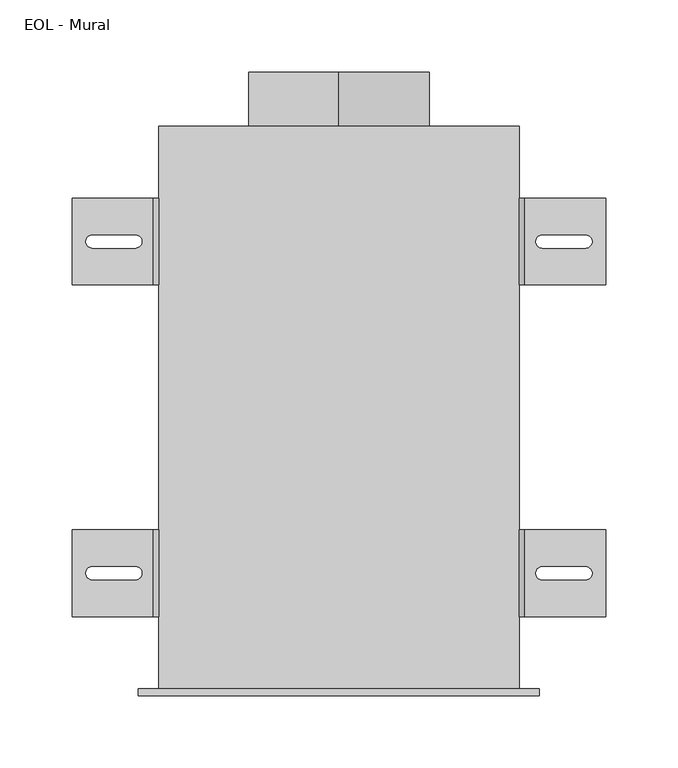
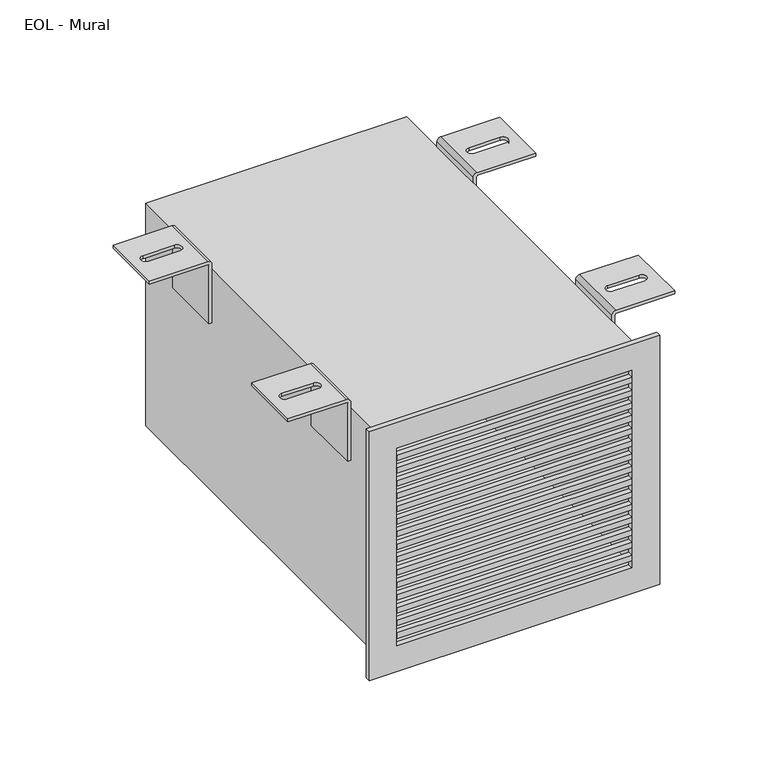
"""IFC4 building model written with IfcOpenShell, lengths in millimetres: air terminal geometry, EOL - Mural : EOL-M125-250x225-2."""

from ifc_helpers import new_model, si_unit, point, frame, origin, origin_2d, place, context, project, spatial, polyline, circle_curve, ellipse_curve, trimmed, segment, composite_curve, outline, extrude, source, transform, mapped, element, save
from ifc_brep_helpers import plane_surface, cylinder_surface, revolved_surface, extruded_surface, advanced_brep


def eol_mural_10c953f2(model_context):
    return source(origin(), model_context, "Body", "SolidModel", [
        advanced_brep(
        [(129.0013366, 110.0, 121.5), (185.0, 110.0, 121.5), (185.0, 110.0, 118.5), (129.0, 110.0, 118.5), (128.0, 110.0, 117.5), (128.0, 110.0, 58.5), (125.0, 110.0, 58.5), (125.0, 110.0, 117.4986634), (129.0013366, 50.0, 121.5), (125.0, 50.0, 117.4986634), (125.0, 50.0, 58.5), (128.0, 50.0, 58.5), (128.0, 50.0, 117.5), (129.0, 50.0, 118.5), (185.0, 50.0, 118.5), (185.0, 50.0, 121.5), (171.0287952, 75.4804328, 121.5), (141.0287952, 75.4804328, 121.5), (141.0287952, 84.4804328, 121.5), (171.0287952, 84.4804328, 121.5), (141.0287952, 75.4804328, 118.5), (171.0287952, 75.4804328, 118.5), (171.0287952, 84.4804328, 118.5), (141.0287952, 84.4804328, 118.5)],
        [
            (0, 1),
            (1, 2),
            (2, 3),
            (3, 4, circle_curve(frame((129.0, 110.0, 117.5), z_axis=(0.0, -1.0, 0.0), x_axis=(-1.0000000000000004, 0.0, 0.0)), 1.0)),
            (4, 5),
            (5, 6),
            (6, 7),
            (7, 0, circle_curve(frame((129.0013366, 110.0, 117.4986634), z_axis=(0.0, 1.0, 0.0), x_axis=(-1.0000000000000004, 0.0, 0.0)), 4.0013366)),
            (8, 9, circle_curve(frame((129.0013366, 50.0, 117.4986634), z_axis=(0.0, -1.0, 0.0), x_axis=(-1.0000000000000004, 0.0, 0.0)), 4.0013366)),
            (9, 10),
            (10, 11),
            (11, 12),
            (12, 13, circle_curve(frame((129.0, 50.0, 117.5), z_axis=(0.0, 1.0, 0.0), x_axis=(-1.0000000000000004, 0.0, 0.0)), 1.0)),
            (13, 14),
            (14, 15),
            (15, 8),
            (0, 8),
            (15, 1),
            (16, 17),
            (17, 18, circle_curve(frame((141.0287952, 79.9804328, 121.5), z_axis=(0.0, 0.0, -1.0), x_axis=(0.0, -1.0, 0.0)), 4.5)),
            (18, 19),
            (19, 16, circle_curve(frame((171.0287952, 79.9804328, 121.5), z_axis=(0.0, 0.0, -1.0), x_axis=(0.0, -1.0, 0.0)), 4.5)),
            (14, 2),
            (13, 3),
            (20, 21),
            (21, 22, ellipse_curve(frame((171.0287952, 79.9804328, 118.5), z_axis=(0.0, 0.0, 1.0), x_axis=(0.0, -1.0, 0.0)), 4.5, 4.5)),
            (22, 23),
            (23, 20, ellipse_curve(frame((141.0287952, 79.9804328, 118.5), z_axis=(0.0, 0.0, 1.0), x_axis=(0.0, -1.0, 0.0)), 4.5, 4.5)),
            (12, 4),
            (11, 5),
            (10, 6),
            (9, 7),
            (16, 21),
            (20, 17),
            (19, 22),
            (18, 23),
        ],
        [
            plane_surface(frame((185.0, 110.0, 121.5), z_axis=(0.0, 1.0, 0.0), x_axis=(1.0, 0.0, 0.0))),
            plane_surface(frame((185.0, 50.0, 121.5), z_axis=(0.0, -1.0, 0.0), x_axis=(-1.0, 0.0, 0.0))),
            plane_surface(frame((129.0013366, 110.0, 121.5), z_axis=(0.0, 0.0, 1.0), x_axis=(0.0, -1.0, 0.0))),
            plane_surface(frame((185.0, 110.0, 121.5), z_axis=(1.0, 0.0, 0.0), x_axis=(0.0, -1.0, 0.0))),
            plane_surface(frame((185.0, 110.0, 118.5), z_axis=(0.0, 0.0, -1.0), x_axis=(0.0, -1.0, 0.0))),
            revolved_surface(polyline([(128.0, 50.0, 117.5), (128.0, 110.00000000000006, 117.5)]), (129.0, 50.0, 117.5), (0.0, -1.0000000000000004, 0.0)),
            plane_surface(frame((128.0, 110.0, 117.5), z_axis=(1.0, 0.0, 0.0), x_axis=(0.0, -1.0, 0.0))),
            plane_surface(frame((128.0, 110.0, 58.5), z_axis=(0.0, 0.0, -1.0), x_axis=(0.0, -1.0, 0.0))),
            plane_surface(frame((125.0, 110.0, 58.5), z_axis=(-1.0, 0.0, 0.0), x_axis=(0.0, -1.0, 0.0))),
            cylinder_surface(frame((129.0013366, 50.0, 117.4986634), z_axis=(0.0, 1.0000000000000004, 0.0), x_axis=(-1.0000000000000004, 0.0, 0.0)), 4.0013366),
            plane_surface(frame((141.0287952, 75.4804328, 121.5), z_axis=(0.0, 1.0, 0.0), x_axis=(0.0, 0.0, -1.0))),
            extruded_surface(trimmed(ellipse_curve(frame((171.0287952, 79.9804328, 118.5), z_axis=(0.0, 0.0, 1.0), x_axis=(0.0, -1.0, 0.0)), 4.5, 4.5), [point((171.0287952, 75.4804328, 118.5))], [point((171.0287952, 84.4804328, 118.5))], True, "CARTESIAN"), (0.0, 0.0, -3.0), 3.0),
            plane_surface(frame((171.0287952, 84.4804328, 121.5), z_axis=(0.0, -1.0, 0.0), x_axis=(0.0, 0.0, -1.0))),
            extruded_surface(trimmed(ellipse_curve(frame((141.0287952, 79.9804328, 118.5), z_axis=(0.0, 0.0, 1.0), x_axis=(0.0, -1.0, 0.0)), 4.5, 4.5), [point((141.0287952, 84.4804328, 118.5))], [point((141.0287952, 75.4804328, 118.5))], True, "CARTESIAN"), (0.0, 0.0, -3.0), 3.0),
        ],
        [
            (0, [[1, 2, 3, 4, 5, 6, 7, 8]]),
            (1, [[9, 10, 11, 12, 13, 14, 15, 16]]),
            (2, [[-1, 17, -16, 18], [19, 20, 21, 22]]),
            (3, [[-2, -18, -15, 23]]),
            (4, [[-3, -23, -14, 24], [25, 26, 27, 28]]),
            (5, [[-4, -24, -13, 29]]),
            (6, [[-5, -29, -12, 30]]),
            (7, [[-6, -30, -11, 31]]),
            (8, [[-7, -31, -10, 32]]),
            (9, [[-8, -32, -9, -17]]),
            (10, [[33, -25, 34, -19]]),
            (11, [[-33, -22, 35, -26]]),
            (12, [[-35, -21, 36, -27]]),
            (13, [[-34, -28, -36, -20]]),
        ],
    ),
        advanced_brep(
        [(129.0013366, 340.0, 121.5), (185.0, 340.0, 121.5), (185.0, 340.0, 118.5), (129.0, 340.0, 118.5), (128.0, 340.0, 117.5), (128.0, 340.0, 58.5), (125.0, 340.0, 58.5), (125.0, 340.0, 117.4986634), (129.0013366, 280.0, 121.5), (125.0, 280.0, 117.4986634), (125.0, 280.0, 58.5), (128.0, 280.0, 58.5), (128.0, 280.0, 117.5), (129.0, 280.0, 118.5), (185.0, 280.0, 118.5), (185.0, 280.0, 121.5), (171.0287952, 305.4804328, 121.5), (141.0287952, 305.4804328, 121.5), (141.0287952, 314.4804328, 121.5), (171.0287952, 314.4804328, 121.5), (141.0287952, 305.4804328, 118.5), (171.0287952, 305.4804328, 118.5), (171.0287952, 314.4804328, 118.5), (141.0287952, 314.4804328, 118.5)],
        [
            (0, 1),
            (1, 2),
            (2, 3),
            (3, 4, circle_curve(frame((129.0, 340.0, 117.5), z_axis=(0.0, -1.0, 0.0), x_axis=(-1.0, 0.0, 0.0)), 1.0)),
            (4, 5),
            (5, 6),
            (6, 7),
            (7, 0, circle_curve(frame((129.0013366, 340.0, 117.4986634), z_axis=(0.0, 1.0, 0.0), x_axis=(-1.0, 0.0, 0.0)), 4.0013366)),
            (8, 9, circle_curve(frame((129.0013366, 280.0, 117.4986634), z_axis=(0.0, -1.0, 0.0), x_axis=(-1.0, 0.0, 0.0)), 4.0013366)),
            (9, 10),
            (10, 11),
            (11, 12),
            (12, 13, circle_curve(frame((129.0, 280.0, 117.5), z_axis=(0.0, 1.0, 0.0), x_axis=(-1.0, 0.0, 0.0)), 1.0)),
            (13, 14),
            (14, 15),
            (15, 8),
            (0, 8),
            (15, 1),
            (16, 17),
            (17, 18, circle_curve(frame((141.0287952, 309.9804328, 121.5), z_axis=(0.0, 0.0, -1.0), x_axis=(0.0, -1.0, 0.0)), 4.5)),
            (18, 19),
            (19, 16, circle_curve(frame((171.0287952, 309.9804328, 121.5), z_axis=(0.0, 0.0, -1.0), x_axis=(0.0, -1.0, 0.0)), 4.5)),
            (14, 2),
            (13, 3),
            (20, 21),
            (21, 22, ellipse_curve(frame((171.0287952, 309.9804328, 118.5), z_axis=(0.0, 0.0, 1.0), x_axis=(0.0, -1.0, 0.0)), 4.5, 4.5)),
            (22, 23),
            (23, 20, ellipse_curve(frame((141.0287952, 309.9804328, 118.5), z_axis=(0.0, 0.0, 1.0), x_axis=(0.0, -1.0, 0.0)), 4.5, 4.5)),
            (12, 4),
            (11, 5),
            (10, 6),
            (9, 7),
            (16, 21),
            (20, 17),
            (19, 22),
            (18, 23),
        ],
        [
            plane_surface(frame((185.0, 340.0, 121.5), z_axis=(0.0, 1.0, 0.0), x_axis=(1.0, 0.0, 0.0))),
            plane_surface(frame((185.0, 280.0, 121.5), z_axis=(0.0, -1.0, 0.0), x_axis=(-1.0, 0.0, 0.0))),
            plane_surface(frame((129.0013366, 340.0, 121.5), z_axis=(0.0, 0.0, 1.0), x_axis=(0.0, -1.0, 0.0))),
            plane_surface(frame((185.0, 340.0, 121.5), z_axis=(1.0, 0.0, 0.0), x_axis=(0.0, -1.0, 0.0))),
            plane_surface(frame((185.0, 340.0, 118.5), z_axis=(0.0, 0.0, -1.0), x_axis=(0.0, -1.0, 0.0))),
            revolved_surface(polyline([(128.0, 280.0, 117.5), (128.0, 340.0, 117.5)]), (129.0, 280.0, 117.5), (0.0, -1.0, 0.0)),
            plane_surface(frame((128.0, 340.0, 117.5), z_axis=(1.0, 0.0, 0.0), x_axis=(0.0, -1.0, 0.0))),
            plane_surface(frame((128.0, 340.0, 58.5), z_axis=(0.0, 0.0, -1.0), x_axis=(0.0, -1.0, 0.0))),
            plane_surface(frame((125.0, 340.0, 58.5), z_axis=(-1.0, 0.0, 0.0), x_axis=(0.0, -1.0, 0.0))),
            cylinder_surface(frame((129.0013366, 280.0, 117.4986634), z_axis=(0.0, 1.0, 0.0), x_axis=(-1.0, 0.0, 0.0)), 4.0013366),
            plane_surface(frame((141.0287952, 305.4804328, 121.5), z_axis=(0.0, 1.0, 0.0), x_axis=(0.0, 0.0, -1.0))),
            extruded_surface(trimmed(ellipse_curve(frame((171.0287952, 309.9804328, 118.5), z_axis=(0.0, 0.0, 1.0), x_axis=(0.0, -1.0, 0.0)), 4.5, 4.5), [point((171.0287952, 305.4804328, 118.5))], [point((171.0287952, 314.4804328, 118.5))], True, "CARTESIAN"), (0.0, 0.0, -3.0), 3.0),
            plane_surface(frame((171.0287952, 314.4804328, 121.5), z_axis=(0.0, -1.0, 0.0), x_axis=(0.0, 0.0, -1.0))),
            extruded_surface(trimmed(ellipse_curve(frame((141.0287952, 309.9804328, 118.5), z_axis=(0.0, 0.0, 1.0), x_axis=(0.0, -1.0, 0.0)), 4.5, 4.5), [point((141.0287952, 314.4804328, 118.5))], [point((141.0287952, 305.4804328, 118.5))], True, "CARTESIAN"), (0.0, 0.0, -3.0), 3.0),
        ],
        [
            (0, [[1, 2, 3, 4, 5, 6, 7, 8]]),
            (1, [[9, 10, 11, 12, 13, 14, 15, 16]]),
            (2, [[-1, 17, -16, 18], [19, 20, 21, 22]]),
            (3, [[-2, -18, -15, 23]]),
            (4, [[-3, -23, -14, 24], [25, 26, 27, 28]]),
            (5, [[-4, -24, -13, 29]]),
            (6, [[-5, -29, -12, 30]]),
            (7, [[-6, -30, -11, 31]]),
            (8, [[-7, -31, -10, 32]]),
            (9, [[-8, -32, -9, -17]]),
            (10, [[33, -25, 34, -19]]),
            (11, [[-33, -22, 35, -26]]),
            (12, [[-35, -21, 36, -27]]),
            (13, [[-34, -28, -36, -20]]),
        ],
    ),
        advanced_brep(
        [(-129.0013366, 50.0, 121.5), (-185.0, 50.0, 121.5), (-185.0, 50.0, 118.5), (-129.0, 50.0, 118.5), (-128.0, 50.0, 117.5), (-128.0, 50.0, 58.5), (-125.0, 50.0, 58.5), (-125.0, 50.0, 117.4986634), (-129.0013366, 110.0, 121.5), (-125.0, 110.0, 117.4986634), (-125.0, 110.0, 58.5), (-128.0, 110.0, 58.5), (-128.0, 110.0, 117.5), (-129.0, 110.0, 118.5), (-185.0, 110.0, 118.5), (-185.0, 110.0, 121.5), (-171.0287952, 84.5195672, 121.5), (-141.0287952, 84.5195672, 121.5), (-141.0287952, 75.5195672, 121.5), (-171.0287952, 75.5195672, 121.5), (-141.0287952, 84.5195672, 118.5), (-171.0287952, 84.5195672, 118.5), (-171.0287952, 75.5195672, 118.5), (-141.0287952, 75.5195672, 118.5)],
        [
            (0, 1),
            (1, 2),
            (2, 3),
            (3, 4, circle_curve(frame((-129.0, 50.0, 117.5), z_axis=(0.0, 1.0, 0.0), x_axis=(1.0, 0.0, 0.0)), 1.0)),
            (4, 5),
            (5, 6),
            (6, 7),
            (7, 0, circle_curve(frame((-129.0013366, 50.0, 117.4986634), z_axis=(0.0, -1.0, 0.0), x_axis=(1.0, 0.0, 0.0)), 4.0013366)),
            (8, 9, circle_curve(frame((-129.0013366, 110.0, 117.4986634), z_axis=(0.0, 1.0, 0.0), x_axis=(1.0, 0.0, 0.0)), 4.0013366)),
            (9, 10),
            (10, 11),
            (11, 12),
            (12, 13, circle_curve(frame((-129.0, 110.0, 117.5), z_axis=(0.0, -1.0, 0.0), x_axis=(1.0, 0.0, 0.0)), 1.0)),
            (13, 14),
            (14, 15),
            (15, 8),
            (0, 8),
            (15, 1),
            (16, 17),
            (17, 18, circle_curve(frame((-141.0287952, 80.0195672, 121.5), z_axis=(0.0, 0.0, -1.0), x_axis=(0.0, 1.0, 0.0)), 4.5)),
            (18, 19),
            (19, 16, circle_curve(frame((-171.0287952, 80.0195672, 121.5), z_axis=(0.0, 0.0, -1.0), x_axis=(0.0, 1.0, 0.0)), 4.5)),
            (14, 2),
            (13, 3),
            (20, 21),
            (21, 22, ellipse_curve(frame((-171.0287952, 80.0195672, 118.5), z_axis=(0.0, 0.0, 1.0), x_axis=(0.0, 1.0, 0.0)), 4.5, 4.5)),
            (22, 23),
            (23, 20, ellipse_curve(frame((-141.0287952, 80.0195672, 118.5), z_axis=(0.0, 0.0, 1.0), x_axis=(0.0, 1.0, 0.0)), 4.5, 4.5)),
            (12, 4),
            (11, 5),
            (10, 6),
            (9, 7),
            (16, 21),
            (20, 17),
            (19, 22),
            (18, 23),
        ],
        [
            plane_surface(frame((-185.0, 50.0, 121.5), z_axis=(0.0, -1.0, 0.0), x_axis=(-1.0, 0.0, 0.0))),
            plane_surface(frame((-185.0, 110.0, 121.5), z_axis=(0.0, 1.0, 0.0), x_axis=(1.0, 0.0, 0.0))),
            plane_surface(frame((-129.0013366, 50.0, 121.5), z_axis=(0.0, 0.0, 1.0), x_axis=(0.0, 1.0, 0.0))),
            plane_surface(frame((-185.0, 50.0, 121.5), z_axis=(-1.0, 0.0, 0.0), x_axis=(0.0, 1.0, 0.0))),
            plane_surface(frame((-185.0, 50.0, 118.5), z_axis=(0.0, 0.0, -1.0), x_axis=(0.0, 1.0, 0.0))),
            revolved_surface(polyline([(-128.0, 110.0, 117.5), (-128.0, 50.0, 117.5)]), (-129.0, 110.0, 117.5), (0.0, 1.0, 0.0)),
            plane_surface(frame((-128.0, 50.0, 117.5), z_axis=(-1.0, 0.0, 0.0), x_axis=(0.0, 1.0, 0.0))),
            plane_surface(frame((-128.0, 50.0, 58.5), z_axis=(0.0, 0.0, -1.0), x_axis=(0.0, 1.0, 0.0))),
            plane_surface(frame((-125.0, 50.0, 58.5), z_axis=(1.0, 0.0, 0.0), x_axis=(0.0, 1.0, 0.0))),
            cylinder_surface(frame((-129.0013366, 110.0, 117.4986634), z_axis=(0.0, -1.0, 0.0), x_axis=(1.0, 0.0, 0.0)), 4.0013366),
            plane_surface(frame((-141.0287952, 84.5195672, 121.5), z_axis=(0.0, -1.0, 0.0), x_axis=(0.0, 0.0, -1.0))),
            extruded_surface(trimmed(ellipse_curve(frame((-171.0287952, 80.0195672, 118.5), z_axis=(0.0, 0.0, 1.0), x_axis=(0.0, 1.0, 0.0)), 4.5, 4.5), [point((-171.0287952, 84.5195672, 118.5))], [point((-171.0287952, 75.5195672, 118.5))], True, "CARTESIAN"), (0.0, 0.0, -3.0), 3.0),
            plane_surface(frame((-171.0287952, 75.5195672, 121.5), z_axis=(0.0, 1.0, 0.0), x_axis=(0.0, 0.0, -1.0))),
            extruded_surface(trimmed(ellipse_curve(frame((-141.0287952, 80.0195672, 118.5), z_axis=(0.0, 0.0, 1.0), x_axis=(0.0, 1.0, 0.0)), 4.5, 4.5), [point((-141.0287952, 75.5195672, 118.5))], [point((-141.0287952, 84.5195672, 118.5))], True, "CARTESIAN"), (0.0, 0.0, -3.0), 3.0),
        ],
        [
            (0, [[1, 2, 3, 4, 5, 6, 7, 8]]),
            (1, [[9, 10, 11, 12, 13, 14, 15, 16]]),
            (2, [[-1, 17, -16, 18], [19, 20, 21, 22]]),
            (3, [[-2, -18, -15, 23]]),
            (4, [[-3, -23, -14, 24], [25, 26, 27, 28]]),
            (5, [[-4, -24, -13, 29]]),
            (6, [[-5, -29, -12, 30]]),
            (7, [[-6, -30, -11, 31]]),
            (8, [[-7, -31, -10, 32]]),
            (9, [[-8, -32, -9, -17]]),
            (10, [[33, -25, 34, -19]]),
            (11, [[-33, -22, 35, -26]]),
            (12, [[-35, -21, 36, -27]]),
            (13, [[-34, -28, -36, -20]]),
        ],
    ),
        advanced_brep(
        [(-129.0013366, 280.0, 121.5), (-185.0, 280.0, 121.5), (-185.0, 280.0, 118.5), (-129.0, 280.0, 118.5), (-128.0, 280.0, 117.5), (-128.0, 280.0, 58.5), (-125.0, 280.0, 58.5), (-125.0, 280.0, 117.4986634), (-129.0013366, 340.0, 121.5), (-125.0, 340.0, 117.4986634), (-125.0, 340.0, 58.5), (-128.0, 340.0, 58.5), (-128.0, 340.0, 117.5), (-129.0, 340.0, 118.5), (-185.0, 340.0, 118.5), (-185.0, 340.0, 121.5), (-171.0287952, 314.5195672, 121.5), (-141.0287952, 314.5195672, 121.5), (-141.0287952, 305.5195672, 121.5), (-171.0287952, 305.5195672, 121.5), (-141.0287952, 314.5195672, 118.5), (-171.0287952, 314.5195672, 118.5), (-171.0287952, 305.5195672, 118.5), (-141.0287952, 305.5195672, 118.5)],
        [
            (0, 1),
            (1, 2),
            (2, 3),
            (3, 4, circle_curve(frame((-129.0, 280.0, 117.5), z_axis=(0.0, 1.0, 0.0), x_axis=(1.0, 0.0, 0.0)), 1.0)),
            (4, 5),
            (5, 6),
            (6, 7),
            (7, 0, circle_curve(frame((-129.0013366, 280.0, 117.4986634), z_axis=(0.0, -1.0, 0.0), x_axis=(1.0, 0.0, 0.0)), 4.0013366)),
            (8, 9, circle_curve(frame((-129.0013366, 340.0, 117.4986634), z_axis=(0.0, 1.0, 0.0), x_axis=(1.0, 0.0, 0.0)), 4.0013366)),
            (9, 10),
            (10, 11),
            (11, 12),
            (12, 13, circle_curve(frame((-129.0, 340.0, 117.5), z_axis=(0.0, -1.0, 0.0), x_axis=(1.0, 0.0, 0.0)), 1.0)),
            (13, 14),
            (14, 15),
            (15, 8),
            (0, 8),
            (15, 1),
            (16, 17),
            (17, 18, circle_curve(frame((-141.0287952, 310.0195672, 121.5), z_axis=(0.0, 0.0, -1.0), x_axis=(0.0, 1.0, 0.0)), 4.5)),
            (18, 19),
            (19, 16, circle_curve(frame((-171.0287952, 310.0195672, 121.5), z_axis=(0.0, 0.0, -1.0), x_axis=(0.0, 1.0, 0.0)), 4.5)),
            (14, 2),
            (13, 3),
            (20, 21),
            (21, 22, ellipse_curve(frame((-171.0287952, 310.0195672, 118.5), z_axis=(0.0, 0.0, 1.0), x_axis=(0.0, 1.0, 0.0)), 4.5, 4.5)),
            (22, 23),
            (23, 20, ellipse_curve(frame((-141.0287952, 310.0195672, 118.5), z_axis=(0.0, 0.0, 1.0), x_axis=(0.0, 1.0, 0.0)), 4.5, 4.5)),
            (12, 4),
            (11, 5),
            (10, 6),
            (9, 7),
            (16, 21),
            (20, 17),
            (19, 22),
            (18, 23),
        ],
        [
            plane_surface(frame((-185.0, 280.0, 121.5), z_axis=(0.0, -1.0, 0.0), x_axis=(-1.0, 0.0, 0.0))),
            plane_surface(frame((-185.0, 340.0, 121.5), z_axis=(0.0, 1.0, 0.0), x_axis=(1.0, 0.0, 0.0))),
            plane_surface(frame((-129.0013366, 280.0, 121.5), z_axis=(0.0, 0.0, 1.0), x_axis=(0.0, 1.0, 0.0))),
            plane_surface(frame((-185.0, 280.0, 121.5), z_axis=(-1.0, 0.0, 0.0), x_axis=(0.0, 1.0, 0.0))),
            plane_surface(frame((-185.0, 280.0, 118.5), z_axis=(0.0, 0.0, -1.0), x_axis=(0.0, 1.0, 0.0))),
            revolved_surface(polyline([(-128.0, 340.0, 117.5), (-128.0, 280.0, 117.5)]), (-129.0, 340.0, 117.5), (0.0, 1.0, 0.0)),
            plane_surface(frame((-128.0, 280.0, 117.5), z_axis=(-1.0, 0.0, 0.0), x_axis=(0.0, 1.0, 0.0))),
            plane_surface(frame((-128.0, 280.0, 58.5), z_axis=(0.0, 0.0, -1.0), x_axis=(0.0, 1.0, 0.0))),
            plane_surface(frame((-125.0, 280.0, 58.5), z_axis=(1.0, 0.0, 0.0), x_axis=(0.0, 1.0, 0.0))),
            cylinder_surface(frame((-129.0013366, 340.0, 117.4986634), z_axis=(0.0, -1.0, 0.0), x_axis=(1.0, 0.0, 0.0)), 4.0013366),
            plane_surface(frame((-141.0287952, 314.5195672, 121.5), z_axis=(0.0, -1.0, 0.0), x_axis=(0.0, 0.0, -1.0))),
            extruded_surface(trimmed(ellipse_curve(frame((-171.0287952, 310.0195672, 118.5), z_axis=(0.0, 0.0, 1.0), x_axis=(0.0, 1.0, 0.0)), 4.5, 4.5), [point((-171.0287952, 314.5195672, 118.5))], [point((-171.0287952, 305.5195672, 118.5))], True, "CARTESIAN"), (0.0, 0.0, -3.0), 3.0),
            plane_surface(frame((-171.0287952, 305.5195672, 121.5), z_axis=(0.0, 1.0, 0.0), x_axis=(0.0, 0.0, -1.0))),
            extruded_surface(trimmed(ellipse_curve(frame((-141.0287952, 310.0195672, 118.5), z_axis=(0.0, 0.0, 1.0), x_axis=(0.0, 1.0, 0.0)), 4.5, 4.5), [point((-141.0287952, 305.5195672, 118.5))], [point((-141.0287952, 314.5195672, 118.5))], True, "CARTESIAN"), (0.0, 0.0, -3.0), 3.0),
        ],
        [
            (0, [[1, 2, 3, 4, 5, 6, 7, 8]]),
            (1, [[9, 10, 11, 12, 13, 14, 15, 16]]),
            (2, [[-1, 17, -16, 18], [19, 20, 21, 22]]),
            (3, [[-2, -18, -15, 23]]),
            (4, [[-3, -23, -14, 24], [25, 26, 27, 28]]),
            (5, [[-4, -24, -13, 29]]),
            (6, [[-5, -29, -12, 30]]),
            (7, [[-6, -30, -11, 31]]),
            (8, [[-7, -31, -10, 32]]),
            (9, [[-8, -32, -9, -17]]),
            (10, [[33, -25, 34, -19]]),
            (11, [[-33, -22, 35, -26]]),
            (12, [[-35, -21, 36, -27]]),
            (13, [[-34, -28, -36, -20]]),
        ],
    ),
        extrude(outline(composite_curve([segment(trimmed(circle_curve(origin_2d(), 62.5), [point((-62.5, 0.0))], [point((62.5, 0.0))], False, "CARTESIAN"), True, "CONTINUOUS"), segment(trimmed(circle_curve(origin_2d(), 62.5), [point((62.5, 0.0))], [point((-62.5, 0.0))], False, "CARTESIAN"), True, "CONTINUOUS")], self_intersect=False), holes=[composite_curve([segment(trimmed(circle_curve(origin_2d(), 61.5), [point((0.0, 61.5))], [point((0.0, -61.5))], True, "CARTESIAN"), True, "CONTINUOUS"), segment(trimmed(circle_curve(origin_2d(), 61.5), [point((0.0, -61.5))], [point((0.0, 61.5))], True, "CARTESIAN"), True, "CONTINUOUS")], self_intersect=False)]), frame((0.0, 390.0, 0.0), z_axis=(0.0, 1.0, 0.0), x_axis=(0.0, 0.0, 1.0)), (0.0, 0.0, 1.0), 37.5),
        extrude(outline(polyline([(112.5, 0.0), (112.5, -5.0), (-112.5, -5.0), (-112.5, 0.0), (112.5, 0.0)])), frame((0.0, 0.0, 87.15), z_axis=(0.0, 0.0, 1.0), x_axis=(1.0, 0.0, 0.0)), (0.0, 0.0, 1.0), 5.6),
        extrude(outline(polyline([(112.5, 0.0), (112.5, -5.0), (-112.5, -5.0), (-112.5, 0.0), (112.5, 0.0)])), frame((0.0, 0.0, 74.3), z_axis=(0.0, 0.0, 1.0), x_axis=(1.0, 0.0, 0.0)), (0.0, 0.0, 1.0), 5.6),
        extrude(outline(polyline([(112.5, 0.0), (112.5, -5.0), (-112.5, -5.0), (-112.5, 0.0), (112.5, 0.0)])), frame((0.0, 0.0, 61.45), z_axis=(0.0, 0.0, 1.0), x_axis=(1.0, 0.0, 0.0)), (0.0, 0.0, 1.0), 5.6),
        extrude(outline(polyline([(112.5, 0.0), (112.5, -5.0), (-112.5, -5.0), (-112.5, 0.0), (112.5, 0.0)])), frame((0.0, 0.0, 48.6), z_axis=(0.0, 0.0, 1.0), x_axis=(1.0, 0.0, 0.0)), (0.0, 0.0, 1.0), 5.6),
        extrude(outline(polyline([(112.5, 0.0), (112.5, -5.0), (-112.5, -5.0), (-112.5, 0.0), (112.5, 0.0)])), frame((0.0, 0.0, 35.75), z_axis=(0.0, 0.0, 1.0), x_axis=(1.0, 0.0, 0.0)), (0.0, 0.0, 1.0), 5.6),
        extrude(outline(polyline([(112.5, 0.0), (112.5, -5.0), (-112.5, -5.0), (-112.5, 0.0), (112.5, 0.0)])), frame((0.0, 0.0, 22.9), z_axis=(0.0, 0.0, 1.0), x_axis=(1.0, 0.0, 0.0)), (0.0, 0.0, 1.0), 5.6),
        extrude(outline(polyline([(112.5, 0.0), (112.5, -5.0), (-112.5, -5.0), (-112.5, 0.0), (112.5, 0.0)])), frame((0.0, 0.0, 10.05), z_axis=(0.0, 0.0, 1.0), x_axis=(1.0, 0.0, 0.0)), (0.0, 0.0, 1.0), 5.6),
        extrude(outline(polyline([(112.5, 0.0), (112.5, -5.0), (-112.5, -5.0), (-112.5, 0.0), (112.5, 0.0)])), frame((0.0, 0.0, -2.8), z_axis=(0.0, 0.0, 1.0), x_axis=(1.0, 0.0, 0.0)), (0.0, 0.0, 1.0), 5.6),
        extrude(outline(polyline([(112.5, 0.0), (112.5, -5.0), (-112.5, -5.0), (-112.5, 0.0), (112.5, 0.0)])), frame((0.0, 0.0, -15.65), z_axis=(0.0, 0.0, 1.0), x_axis=(1.0, 0.0, 0.0)), (0.0, 0.0, 1.0), 5.6),
        extrude(outline(polyline([(112.5, 0.0), (112.5, -5.0), (-112.5, -5.0), (-112.5, 0.0), (112.5, 0.0)])), frame((0.0, 0.0, -28.5), z_axis=(0.0, 0.0, 1.0), x_axis=(1.0, 0.0, 0.0)), (0.0, 0.0, 1.0), 5.6),
        extrude(outline(polyline([(112.5, 0.0), (112.5, -5.0), (-112.5, -5.0), (-112.5, 0.0), (112.5, 0.0)])), frame((0.0, 0.0, -41.35), z_axis=(0.0, 0.0, 1.0), x_axis=(1.0, 0.0, 0.0)), (0.0, 0.0, 1.0), 5.6),
        extrude(outline(polyline([(112.5, 0.0), (112.5, -5.0), (-112.5, -5.0), (-112.5, 0.0), (112.5, 0.0)])), frame((0.0, 0.0, -54.2), z_axis=(0.0, 0.0, 1.0), x_axis=(1.0, 0.0, 0.0)), (0.0, 0.0, 1.0), 5.6),
        extrude(outline(polyline([(112.5, 0.0), (112.5, -5.0), (-112.5, -5.0), (-112.5, 0.0), (112.5, 0.0)])), frame((0.0, 0.0, -67.05), z_axis=(0.0, 0.0, 1.0), x_axis=(1.0, 0.0, 0.0)), (0.0, 0.0, 1.0), 5.6),
        extrude(outline(polyline([(112.5, 0.0), (112.5, -5.0), (-112.5, -5.0), (-112.5, 0.0), (112.5, 0.0)])), frame((0.0, 0.0, -79.9), z_axis=(0.0, 0.0, 1.0), x_axis=(1.0, 0.0, 0.0)), (0.0, 0.0, 1.0), 5.6),
        extrude(outline(polyline([(112.5, 0.0), (112.5, -5.0), (-112.5, -5.0), (-112.5, 0.0), (112.5, 0.0)])), frame((0.0, 0.0, -92.75), z_axis=(0.0, 0.0, 1.0), x_axis=(1.0, 0.0, 0.0)), (0.0, 0.0, 1.0), 5.6),
        extrude(outline(polyline([(126.0, 139.0), (126.0, -139.0), (-126.0, -139.0), (-126.0, 139.0), (126.0, 139.0)]), holes=[polyline([(100.0, 112.5), (-100.0, 112.5), (-100.0, -112.5), (100.0, -112.5), (100.0, 112.5)])]), frame((0.0, -5.0, 0.0), z_axis=(0.0, 1.0, 0.0), x_axis=(0.0, 0.0, 1.0)), (0.0, 0.0, 1.0), 5.0),
        advanced_brep(
        [(125.0, 390.0, 112.5), (-125.0, 390.0, 112.5), (-125.0, 0.0, 112.5), (125.0, 0.0, 112.5), (125.0, 390.0, -112.5), (125.0, 0.0, -112.5), (-125.0, 0.0, -112.5), (-125.0, 390.0, -112.5), (-61.5, 390.0, 0.0), (61.5, 390.0, 0.0), (-120.0, 0.0, 107.5), (120.0, 0.0, 107.5), (120.0, 0.0, -107.5), (-120.0, 0.0, -107.5), (120.0, 385.0, 107.5), (-120.0, 385.0, 107.5), (120.0, 385.0, -107.5), (-120.0, 385.0, -107.5), (61.5, 385.0, 0.0), (-61.5, 385.0, 0.0)],
        [
            (0, 1),
            (1, 2),
            (2, 3),
            (3, 0),
            (4, 5),
            (5, 6),
            (6, 7),
            (7, 4),
            (0, 4),
            (7, 1),
            (8, 9, circle_curve(frame((0.0, 390.0, 0.0), z_axis=(0.0, -1.0, 0.0), x_axis=(1.0, 0.0, 0.0)), 61.5)),
            (9, 8, circle_curve(frame((0.0, 390.0, 0.0), z_axis=(0.0, -1.0, 0.0), x_axis=(1.0, 0.0, 0.0)), 61.5)),
            (6, 2),
            (5, 3),
            (10, 11),
            (11, 12),
            (12, 13),
            (13, 10),
            (14, 11),
            (10, 15),
            (15, 14),
            (16, 17),
            (17, 13),
            (12, 16),
            (15, 17),
            (16, 14),
            (18, 19, circle_curve(frame((0.0, 385.0, 0.0), z_axis=(0.0, 1.0, 0.0), x_axis=(1.0, 0.0, 0.0)), 61.5)),
            (19, 18, circle_curve(frame((0.0, 385.0, 0.0), z_axis=(0.0, 1.0, 0.0), x_axis=(1.0, 0.0, 0.0)), 61.5)),
            (8, 19),
            (18, 9),
        ],
        [
            plane_surface(frame((-125.0, 390.0, 112.5), z_axis=(0.0, 0.0, 1.0), x_axis=(-1.0, 0.0, 0.0))),
            plane_surface(frame((-125.0, 390.0, -112.5), z_axis=(0.0, 0.0, -1.0), x_axis=(1.0, 0.0, 0.0))),
            plane_surface(frame((125.0, 390.0, 112.5), z_axis=(0.0, 1.0, 0.0), x_axis=(0.0, 0.0, -1.0))),
            plane_surface(frame((-125.0, 390.0, 112.5), z_axis=(-1.0, 0.0, 0.0), x_axis=(0.0, 0.0, -1.0))),
            plane_surface(frame((-125.0, 0.0, 112.5), z_axis=(0.0, -1.0, 0.0), x_axis=(0.0, 0.0, -1.0))),
            plane_surface(frame((125.0, 0.0, 112.5), z_axis=(1.0, 0.0, 0.0), x_axis=(0.0, 0.0, -1.0))),
            plane_surface(frame((-120.0, 385.0, 107.5), z_axis=(0.0, 0.0, -1.0), x_axis=(-1.0, 0.0, 0.0))),
            plane_surface(frame((-120.0, 385.0, -107.5), z_axis=(0.0, 0.0, 1.0), x_axis=(1.0, 0.0, 0.0))),
            plane_surface(frame((120.0, 385.0, 107.5), z_axis=(0.0, -1.0, 0.0), x_axis=(0.0, 0.0, -1.0))),
            plane_surface(frame((-120.0, 385.0, 107.5), z_axis=(1.0, 0.0, 0.0), x_axis=(0.0, 0.0, -1.0))),
            plane_surface(frame((120.0, 0.0, 107.5), z_axis=(-1.0, 0.0, 0.0), x_axis=(0.0, 0.0, -1.0))),
            revolved_surface(polyline([(61.5, 385.0, 0.0), (61.5, 390.0, 0.0)]), (0.0, 427.5, 0.0), (0.0, -1.0, 0.0)),
        ],
        [
            (0, [[1, 2, 3, 4]]),
            (1, [[5, 6, 7, 8]]),
            (2, [[-1, 9, -8, 10], [11, 12]]),
            (3, [[-2, -10, -7, 13]]),
            (4, [[-3, -13, -6, 14], [15, 16, 17, 18]]),
            (5, [[-4, -14, -5, -9]]),
            (6, [[19, -15, 20, 21]]),
            (7, [[22, 23, -17, 24]]),
            (8, [[-21, 25, -22, 26], [27, 28]]),
            (9, [[-20, -18, -23, -25]]),
            (10, [[-19, -26, -24, -16]]),
            (11, [[29, -27, 30, -11]]),
            (11, [[-29, -12, -30, -28]]),
        ],
    ),
    ])


if __name__ == "__main__":
    model = new_model("IFC4")
    model_context = context("Model", 3, world=origin())
    ifc_project = project(units=[si_unit("LENGTHUNIT", "METRE", prefix="MILLI")], contexts=[model_context])
    site = spatial("IfcSite", under=ifc_project)
    building = spatial("IfcBuilding", under=site)
    placement = place(None, origin())
    eol_mural_shape = eol_mural_10c953f2(model_context)
    element("IfcAirTerminal", 1, ObjectType="EOL - Mural : EOL-M125-250x225-2", at=placement, inside=building, context=model_context, shape_type="MappedRepresentation", body=[
        mapped(eol_mural_shape, transform((0.0, 0.0, 0.0), x_axis=(1.0, 0.0, 0.0), y_axis=(0.0, 1.0, 0.0), z_axis=(0.0, 0.0, 1.0))),
    ])
    save(model, "model.ifc")
